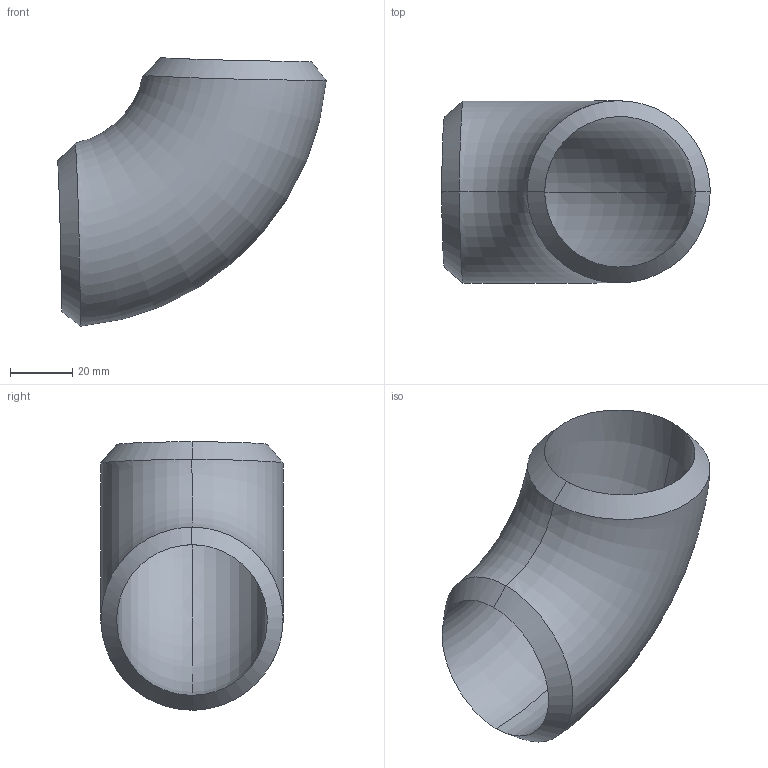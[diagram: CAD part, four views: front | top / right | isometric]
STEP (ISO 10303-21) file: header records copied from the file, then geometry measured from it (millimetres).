
FILE_DESCRIPTION (( 'STEP AP203' ), '1' );
FILE_NAME ('3D_R2651_1 1-2X80S_173425143.STEP', '2024-08-22T09:39:00', ( '' ), ( '' ), 'SwSTEP 2.0', 'SolidWorks 2024', '' );
FILE_SCHEMA (( 'CONFIG_CONTROL_DESIGN' ));
Length unit declared in the file: millimetre
Products named in the file (1): 3D_R2651_1 1-2X80S_173425143
Bounding box: 86.12 x 58.44 x 86.12 mm (x, y, z)
Volume: 69728.8 mm3; surface area: 30138.1 mm2
Topology: 1 solids, 1 shells, 10 faces, 26 edges, 16 vertices
Faces by surface type: bspline 4, torus 4, plane 2
Entity records: 3261 total; most frequent: CARTESIAN_POINT 2975, ORIENTED_EDGE 52, DIRECTION 30, EDGE_CURVE 26, B_SPLINE_CURVE_WITH_KNOTS 18, VERTEX_POINT 16, AXIS2_PLACEMENT_3D 15, ADVANCED_FACE 10
